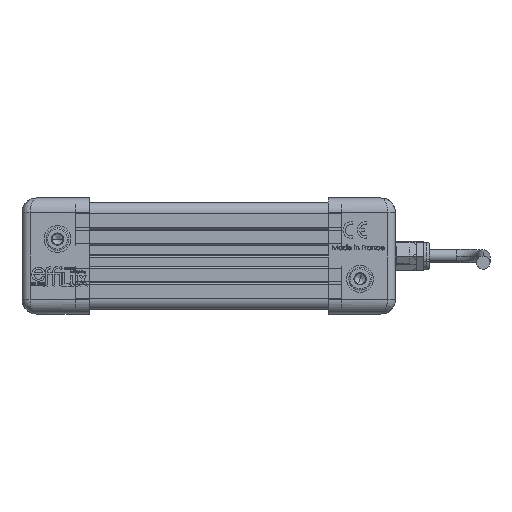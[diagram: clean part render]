
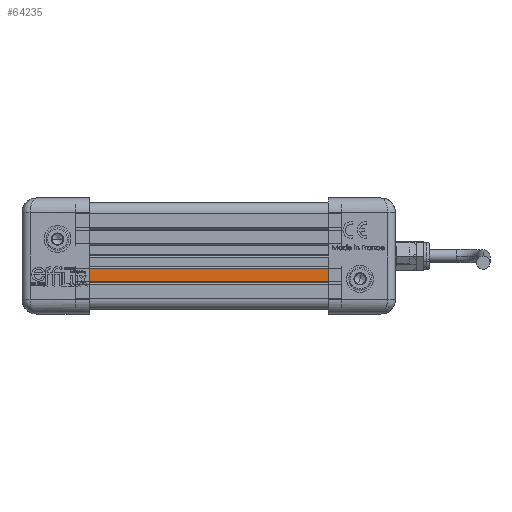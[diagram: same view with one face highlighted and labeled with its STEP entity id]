
A CAD part, front view. The second image highlights one B-rep face of the part: STEP entity #64235.
In plain terms, the highlighted planar face has unit normal (0, -1, 0) as drawn and (-1, 0, 0) by its records, which use the part's own axes.
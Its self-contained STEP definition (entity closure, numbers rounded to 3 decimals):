
#158 = VERTEX_POINT ( 'NONE', #16197 ) ;
#999 = EDGE_CURVE ( 'NONE', #158, #64084, #45829, .T. ) ;
#2846 = DIRECTION ( 'NONE',  ( 1., 0., 0. ) ) ;
#5360 = CARTESIAN_POINT ( 'NONE',  ( -9., -9.5, 0. ) ) ;
#7304 = CARTESIAN_POINT ( 'NONE',  ( -9., -4.5, 99. ) ) ;
#8907 = VECTOR ( 'NONE', #58435, 1000. ) ;
#9013 = VECTOR ( 'NONE', #55749, 1000. ) ;
#10160 = CARTESIAN_POINT ( 'NONE',  ( -9., -4.5, 99. ) ) ;
#13460 = CARTESIAN_POINT ( 'NONE',  ( -9., -4.5, 0. ) ) ;
#14806 = DIRECTION ( 'NONE',  ( 0., -1., 0. ) ) ;
#16197 = CARTESIAN_POINT ( 'NONE',  ( -9., -4.5, 99. ) ) ;
#17610 = FACE_OUTER_BOUND ( 'NONE', #28815, .T. ) ;
#18459 = ORIENTED_EDGE ( 'NONE', *, *, #999, .F. ) ;
#20364 = EDGE_CURVE ( 'NONE', #64084, #35207, #56293, .T. ) ;
#21939 = ORIENTED_EDGE ( 'NONE', *, *, #36266, .T. ) ;
#22977 = VECTOR ( 'NONE', #61752, 1000. ) ;
#28707 = VECTOR ( 'NONE', #14806, 1000. ) ;
#28815 = EDGE_LOOP ( 'NONE', ( #34610, #42295, #18459, #21939 ) ) ;
#34610 = ORIENTED_EDGE ( 'NONE', *, *, #36795, .T. ) ;
#35207 = VERTEX_POINT ( 'NONE', #5360 ) ;
#36227 = LINE ( 'NONE', #10160, #8907 ) ;
#36266 = EDGE_CURVE ( 'NONE', #158, #64064, #36227, .T. ) ;
#36795 = EDGE_CURVE ( 'NONE', #64064, #35207, #55943, .T. ) ;
#42295 = ORIENTED_EDGE ( 'NONE', *, *, #20364, .F. ) ;
#43674 = PLANE ( 'NONE',  #54869 ) ;
#45829 = LINE ( 'NONE', #66364, #9013 ) ;
#46056 = CARTESIAN_POINT ( 'NONE',  ( -9., -9.5, 99. ) ) ;
#54869 = AXIS2_PLACEMENT_3D ( 'NONE', #7304, #2846, #59410 ) ;
#55749 = DIRECTION ( 'NONE',  ( 0., -1., 0. ) ) ;
#55943 = LINE ( 'NONE', #13460, #28707 ) ;
#56058 = CARTESIAN_POINT ( 'NONE',  ( -9., -9.5, 99. ) ) ;
#56293 = LINE ( 'NONE', #46056, #22977 ) ;
#56386 = CARTESIAN_POINT ( 'NONE',  ( -9., -4.5, 0. ) ) ;
#58435 = DIRECTION ( 'NONE',  ( 0., 0., -1. ) ) ;
#59410 = DIRECTION ( 'NONE',  ( 0., 1., 0. ) ) ;
#61752 = DIRECTION ( 'NONE',  ( 0., 0., -1. ) ) ;
#64064 = VERTEX_POINT ( 'NONE', #56386 ) ;
#64084 = VERTEX_POINT ( 'NONE', #56058 ) ;
#64235 = ADVANCED_FACE ( 'NONE', ( #17610 ), #43674, .F. ) ;
#66364 = CARTESIAN_POINT ( 'NONE',  ( -9., -4.5, 99. ) ) ;
